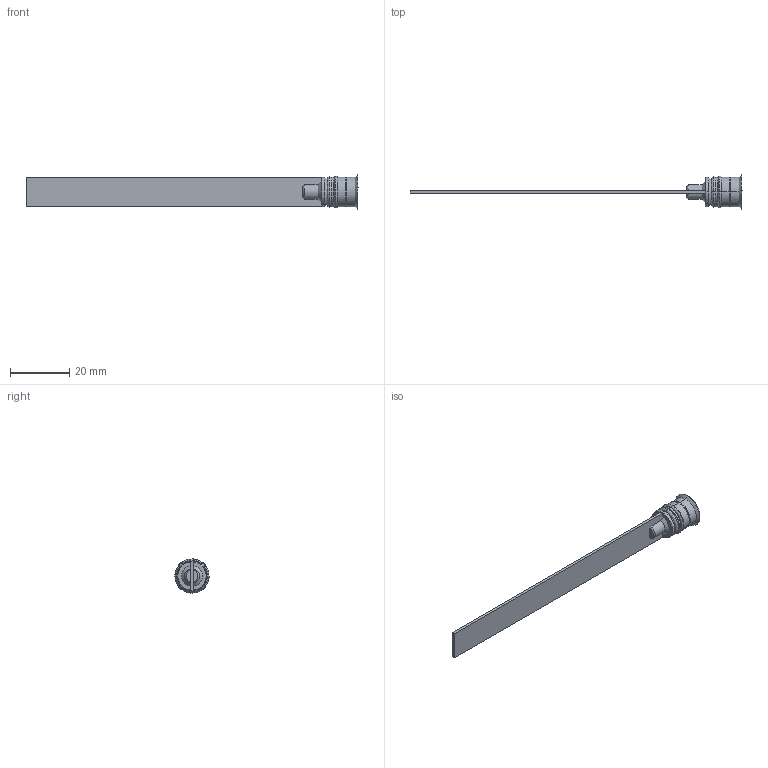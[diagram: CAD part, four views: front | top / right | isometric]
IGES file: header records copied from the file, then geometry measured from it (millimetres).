
Start section: START RECORD GO HERE.
Global section: file name: RL-10Fx100.igs; native system: DASSAULT SYSTEMES CATIA V5 R20 - www.3ds.com; preprocessor: CATIA Version 5 Release 20 ; author: Utente; organization: NB04-ASUS; date: 20210303.200722; units: millimetre
Bounding box: 112.5 x 11.6 x 11.6 mm (x, y, z)
Surface area: 3109.2 mm2 (no closed solid volume)
Topology: 0 solids, 0 shells, 73 faces, 400 edges, 400 vertices
Faces by surface type: revolution 44, plane 29
